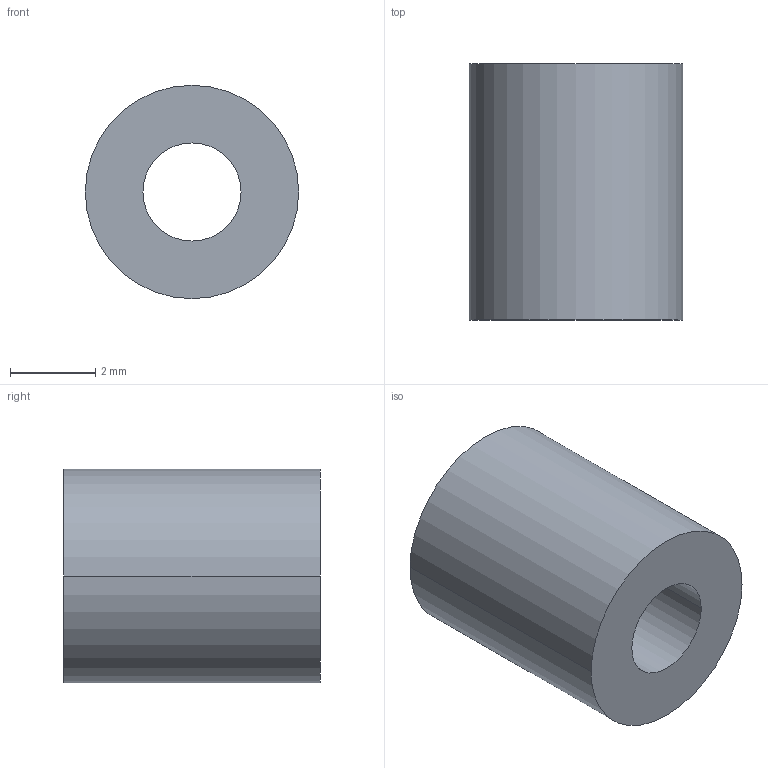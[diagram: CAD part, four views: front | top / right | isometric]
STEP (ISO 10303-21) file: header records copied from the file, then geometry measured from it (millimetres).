
FILE_DESCRIPTION (( 'STEP AP203' ), '1' );
FILE_NAME ('30800.WPP5A2.3.step', '2019-01-23T22:16:39', ( '' ), ( '' ), 'SwSTEP 2.0', 'SolidWorks 2017', '' );
FILE_SCHEMA (( 'CONFIG_CONTROL_DESIGN' ));
Length unit declared in the file: millimetre
Products named in the file (1): 30800.WPP5A2.3
Bounding box: 5 x 6 x 5 mm (x, y, z)
Volume: 91 mm3; surface area: 165.9 mm2
Topology: 1 solids, 1 shells, 8 faces, 16 edges, 10 vertices
Faces by surface type: cylinder 4, torus 2, plane 2
Entity records: 297 total; most frequent: DIRECTION 46, CARTESIAN_POINT 35, ORIENTED_EDGE 32, AXIS2_PLACEMENT_3D 21, EDGE_CURVE 16, CIRCLE 12, EDGE_LOOP 10, VERTEX_POINT 10
